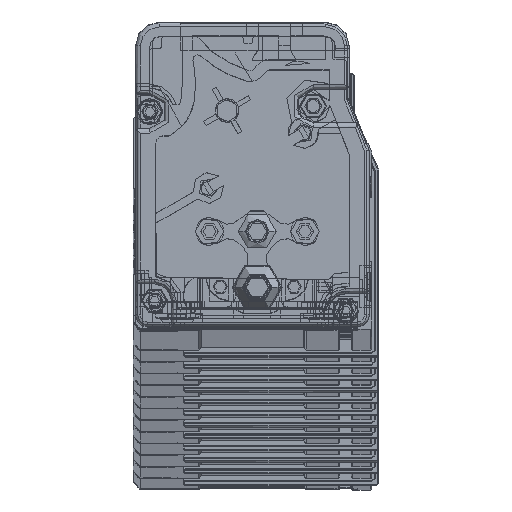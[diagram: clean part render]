
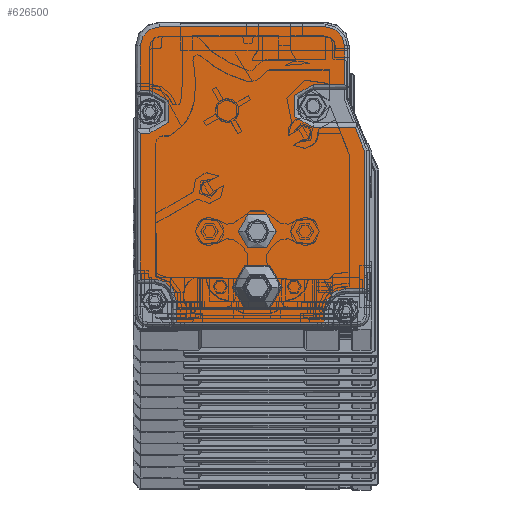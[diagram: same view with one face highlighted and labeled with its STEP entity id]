
A CAD part, top view. The second image highlights one B-rep face of the part: STEP entity #626500.
In plain terms, the highlighted planar face has unit normal (0, 0, 1).
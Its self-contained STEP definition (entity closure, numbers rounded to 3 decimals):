
#624390=CARTESIAN_POINT('',(-20.265,1.758,
4772.39));
#624400=DIRECTION('',(0.,0.,-1.));
#624410=DIRECTION('',(-1.,0.,0.));
#624420=AXIS2_PLACEMENT_3D('',#624390,#624400,#624410);
#624430=PLANE('',#624420);
#624440=CARTESIAN_POINT('',(-44.056,10.421,
4772.39));
#624450=DIRECTION('',(0.,0.,-1.));
#624460=DIRECTION('',(-1.,0.,0.));
#624470=AXIS2_PLACEMENT_3D('',#624440,#624450,#624460);
#624480=CIRCLE('',#624470,5.);
#624490=CARTESIAN_POINT('',(-49.056,10.421,
4772.39));
#624500=VERTEX_POINT('',#624490);
#624510=CARTESIAN_POINT('',(-39.056,10.421,
4772.39));
#624520=VERTEX_POINT('',#624510);
#624530=EDGE_CURVE('',#624500,#624520,#624480,.T.);
#624540=ORIENTED_EDGE('',*,*,#624530,.T.);
#624550=EDGE_CURVE('',#624520,#624500,#624480,.T.);
#624560=ORIENTED_EDGE('',*,*,#624550,.T.);
#624570=EDGE_LOOP('',(#624560,#624540));
#624580=FACE_BOUND('',#624570,.T.);
#624590=CARTESIAN_POINT('',(-44.059,22.124,
4772.39));
#624600=DIRECTION('',(0.,0.,1.));
#624610=DIRECTION('',(-1.,0.,0.));
#624620=AXIS2_PLACEMENT_3D('',#624590,#624600,#624610);
#624630=CIRCLE('',#624620,4.);
#624640=CARTESIAN_POINT('',(-40.059,22.124,
4772.39));
#624650=VERTEX_POINT('',#624640);
#624660=CARTESIAN_POINT('',(-48.059,22.124,
4772.39));
#624670=VERTEX_POINT('',#624660);
#624680=EDGE_CURVE('',#624650,#624670,#624630,.T.);
#624690=ORIENTED_EDGE('',*,*,#624680,.F.);
#624700=EDGE_CURVE('',#624670,#624650,#624630,.T.);
#624710=ORIENTED_EDGE('',*,*,#624700,.F.);
#624720=EDGE_LOOP('',(#624710,#624690));
#624730=FACE_BOUND('',#624720,.T.);
#624740=CARTESIAN_POINT('',(-61.059,2.124,
4772.39));
#624750=DIRECTION('',(0.,-1.,0.));
#624760=VECTOR('',#624750,1.);
#624770=LINE('',#624740,#624760);
#624780=CARTESIAN_POINT('',(-61.059,7.624,
4772.39));
#624790=VERTEX_POINT('',#624780);
#624800=CARTESIAN_POINT('',(-61.059,3.124,
4772.39));
#624810=VERTEX_POINT('',#624800);
#624820=EDGE_CURVE('',#624790,#624810,#624770,.T.);
#624830=ORIENTED_EDGE('',*,*,#624820,.T.);
#624840=CARTESIAN_POINT('',(-65.559,7.624,
4772.39));
#624850=DIRECTION('',(0.,0.,-1.));
#624860=DIRECTION('',(-1.,0.,0.));
#624870=AXIS2_PLACEMENT_3D('',#624840,#624850,#624860);
#624880=CIRCLE('',#624870,4.5);
#624890=CARTESIAN_POINT('',(-65.559,12.124,
4772.39));
#624900=VERTEX_POINT('',#624890);
#624910=EDGE_CURVE('',#624900,#624790,#624880,.T.);
#624920=ORIENTED_EDGE('',*,*,#624910,.T.);
#624930=CARTESIAN_POINT('',(-20.559,12.124,
4772.39));
#624940=DIRECTION('',(1.,0.,0.));
#624950=VECTOR('',#624940,1.);
#624960=LINE('',#624930,#624950);
#624970=CARTESIAN_POINT('',(-68.559,12.124,
4772.39));
#624980=VERTEX_POINT('',#624970);
#624990=EDGE_CURVE('',#624980,#624900,#624960,.T.);
#625000=ORIENTED_EDGE('',*,*,#624990,.T.);
#625010=CARTESIAN_POINT('',(-68.559,2.124,
4772.39));
#625020=DIRECTION('',(0.,-1.,0.));
#625030=VECTOR('',#625020,1.);
#625040=LINE('',#625010,#625030);
#625050=CARTESIAN_POINT('',(-68.559,42.727,
4772.39));
#625060=VERTEX_POINT('',#625050);
#625070=EDGE_CURVE('',#625060,#624980,#625040,.T.);
#625080=ORIENTED_EDGE('',*,*,#625070,.T.);
#625090=CARTESIAN_POINT('',(-20.559,42.727,
4772.39));
#625100=DIRECTION('',(-1.,0.,0.));
#625110=VECTOR('',#625100,1.);
#625120=LINE('',#625090,#625110);
#625130=CARTESIAN_POINT('',(-66.559,42.727,
4772.39));
#625140=VERTEX_POINT('',#625130);
#625150=EDGE_CURVE('',#625140,#625060,#625120,.T.);
#625160=ORIENTED_EDGE('',*,*,#625150,.T.);
#625170=CARTESIAN_POINT('',(-66.559,47.227,
4772.39));
#625180=DIRECTION('',(0.,0.,-1.));
#625190=DIRECTION('',(-1.,0.,0.));
#625200=AXIS2_PLACEMENT_3D('',#625170,#625180,#625190);
#625210=CIRCLE('',#625200,4.5);
#625220=CARTESIAN_POINT('',(-66.559,51.727,
4772.39));
#625230=VERTEX_POINT('',#625220);
#625240=EDGE_CURVE('',#625230,#625140,#625210,.T.);
#625250=ORIENTED_EDGE('',*,*,#625240,.T.);
#625260=CARTESIAN_POINT('',(-20.559,51.727,
4772.39));
#625270=DIRECTION('',(1.,0.,0.));
#625280=VECTOR('',#625270,1.);
#625290=LINE('',#625260,#625280);
#625300=CARTESIAN_POINT('',(-68.559,51.727,
4772.39));
#625310=VERTEX_POINT('',#625300);
#625320=EDGE_CURVE('',#625310,#625230,#625290,.T.);
#625330=ORIENTED_EDGE('',*,*,#625320,.T.);
#625340=CARTESIAN_POINT('',(-68.559,2.124,
4772.39));
#625350=DIRECTION('',(0.,-1.,0.));
#625360=VECTOR('',#625350,1.);
#625370=LINE('',#625340,#625360);
#625380=CARTESIAN_POINT('',(-68.559,61.024,
4772.39));
#625390=VERTEX_POINT('',#625380);
#625400=EDGE_CURVE('',#625390,#625310,#625370,.T.);
#625410=ORIENTED_EDGE('',*,*,#625400,.T.);
#625420=CARTESIAN_POINT('',(-64.559,61.024,
4772.39));
#625430=DIRECTION('',(0.,0.,1.));
#625440=DIRECTION('',(1.,0.,0.));
#625450=AXIS2_PLACEMENT_3D('',#625420,#625430,#625440);
#625460=CIRCLE('',#625450,4.);
#625470=CARTESIAN_POINT('',(-64.559,65.024,
4772.39));
#625480=VERTEX_POINT('',#625470);
#625490=EDGE_CURVE('',#625480,#625390,#625460,.T.);
#625500=ORIENTED_EDGE('',*,*,#625490,.T.);
#625510=CARTESIAN_POINT('',(-20.559,65.024,
4772.39));
#625520=DIRECTION('',(-1.,0.,0.));
#625530=VECTOR('',#625520,1.);
#625540=LINE('',#625510,#625530);
#625550=CARTESIAN_POINT('',(-29.759,65.024,
4772.39));
#625560=VERTEX_POINT('',#625550);
#625570=EDGE_CURVE('',#625560,#625480,#625540,.T.);
#625580=ORIENTED_EDGE('',*,*,#625570,.T.);
#625590=CARTESIAN_POINT('',(-29.759,61.024,
4772.39));
#625600=DIRECTION('',(0.,0.,1.));
#625610=DIRECTION('',(1.,0.,0.));
#625620=AXIS2_PLACEMENT_3D('',#625590,#625600,#625610);
#625630=CIRCLE('',#625620,4.);
#625640=CARTESIAN_POINT('',(-25.759,61.024,
4772.39));
#625650=VERTEX_POINT('',#625640);
#625660=EDGE_CURVE('',#625650,#625560,#625630,.T.);
#625670=ORIENTED_EDGE('',*,*,#625660,.T.);
#625680=CARTESIAN_POINT('',(-25.759,2.124,
4772.39));
#625690=DIRECTION('',(0.,1.,0.));
#625700=VECTOR('',#625690,1.);
#625710=LINE('',#625680,#625700);
#625720=CARTESIAN_POINT('',(-25.759,52.924,
4772.39));
#625730=VERTEX_POINT('',#625720);
#625740=EDGE_CURVE('',#625730,#625650,#625710,.T.);
#625750=ORIENTED_EDGE('',*,*,#625740,.T.);
#625760=CARTESIAN_POINT('',(-20.559,52.924,
4772.39));
#625770=DIRECTION('',(-1.,0.,0.));
#625780=VECTOR('',#625770,1.);
#625790=LINE('',#625760,#625780);
#625800=CARTESIAN_POINT('',(-32.309,52.924,
4772.39));
#625810=VERTEX_POINT('',#625800);
#625820=EDGE_CURVE('',#625730,#625810,#625790,.T.);
#625830=ORIENTED_EDGE('',*,*,#625820,.F.);
#625840=CARTESIAN_POINT('',(-32.309,48.424,
4772.39));
#625850=DIRECTION('',(0.,0.,-1.));
#625860=DIRECTION('',(-1.,0.,0.));
#625870=AXIS2_PLACEMENT_3D('',#625840,#625850,#625860);
#625880=CIRCLE('',#625870,4.5);
#625890=CARTESIAN_POINT('',(-32.309,43.924,
4772.39));
#625900=VERTEX_POINT('',#625890);
#625910=EDGE_CURVE('',#625900,#625810,#625880,.T.);
#625920=ORIENTED_EDGE('',*,*,#625910,.T.);
#625930=CARTESIAN_POINT('',(-20.559,43.924,
4772.39));
#625940=DIRECTION('',(-1.,0.,0.));
#625950=VECTOR('',#625940,1.);
#625960=LINE('',#625930,#625950);
#625970=CARTESIAN_POINT('',(-23.499,43.924,
4772.39));
#625980=VERTEX_POINT('',#625970);
#625990=EDGE_CURVE('',#625980,#625900,#625960,.T.);
#626000=ORIENTED_EDGE('',*,*,#625990,.T.);
#626010=CARTESIAN_POINT('',(-7.243,2.124,
4772.39));
#626020=DIRECTION('',(0.362,-0.932,0.));
#626030=VECTOR('',#626020,1.);
#626040=LINE('',#626010,#626030);
#626050=CARTESIAN_POINT('',(-21.559,38.937,
4772.39));
#626060=VERTEX_POINT('',#626050);
#626070=EDGE_CURVE('',#625980,#626060,#626040,.T.);
#626080=ORIENTED_EDGE('',*,*,#626070,.F.);
#626090=CARTESIAN_POINT('',(-21.559,2.124,
4772.39));
#626100=DIRECTION('',(0.,-1.,0.));
#626110=VECTOR('',#626100,1.);
#626120=LINE('',#626090,#626110);
#626130=CARTESIAN_POINT('',(-21.559,10.124,
4772.39));
#626140=VERTEX_POINT('',#626130);
#626150=EDGE_CURVE('',#626060,#626140,#626120,.T.);
#626160=ORIENTED_EDGE('',*,*,#626150,.F.);
#626170=CARTESIAN_POINT('',(-20.559,10.124,
4772.39));
#626180=DIRECTION('',(1.,0.,0.));
#626190=VECTOR('',#626180,1.);
#626200=LINE('',#626170,#626190);
#626210=CARTESIAN_POINT('',(-25.559,10.124,
4772.39));
#626220=VERTEX_POINT('',#626210);
#626230=EDGE_CURVE('',#626220,#626140,#626200,.T.);
#626240=ORIENTED_EDGE('',*,*,#626230,.T.);
#626250=CARTESIAN_POINT('',(-25.559,5.624,
4772.39));
#626260=DIRECTION('',(0.,0.,-1.));
#626270=DIRECTION('',(-1.,0.,0.));
#626280=AXIS2_PLACEMENT_3D('',#626250,#626260,#626270);
#626290=CIRCLE('',#626280,4.5);
#626300=CARTESIAN_POINT('',(-30.059,5.624,
4772.39));
#626310=VERTEX_POINT('',#626300);
#626320=EDGE_CURVE('',#626310,#626220,#626290,.T.);
#626330=ORIENTED_EDGE('',*,*,#626320,.T.);
#626340=CARTESIAN_POINT('',(-30.059,2.124,
4772.39));
#626350=DIRECTION('',(0.,1.,0.));
#626360=VECTOR('',#626350,1.);
#626370=LINE('',#626340,#626360);
#626380=CARTESIAN_POINT('',(-30.059,3.124,
4772.39));
#626390=VERTEX_POINT('',#626380);
#626400=EDGE_CURVE('',#626390,#626310,#626370,.T.);
#626410=ORIENTED_EDGE('',*,*,#626400,.T.);
#626420=CARTESIAN_POINT('',(-20.559,3.124,
4772.39));
#626430=DIRECTION('',(-1.,0.,0.));
#626440=VECTOR('',#626430,1.);
#626450=LINE('',#626420,#626440);
#626460=EDGE_CURVE('',#626390,#624810,#626450,.T.);
#626470=ORIENTED_EDGE('',*,*,#626460,.F.);
#626480=EDGE_LOOP('',(#626470,#626410,#626330,#626240,#626160,#626080,
#626000,#625920,#625830,#625750,#625670,#625580,#625500,#625410,#625330,
#625250,#625160,#625080,#625000,#624920,#624830));
#626490=FACE_OUTER_BOUND('',#626480,.T.);
#626500=ADVANCED_FACE('',(#624580,#624730,#626490),#624430,.F.);
